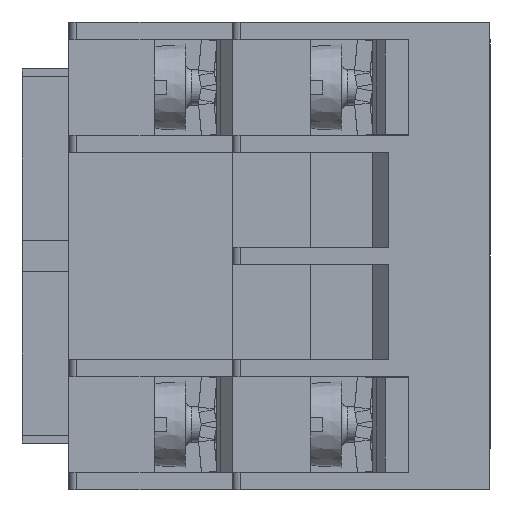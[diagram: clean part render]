
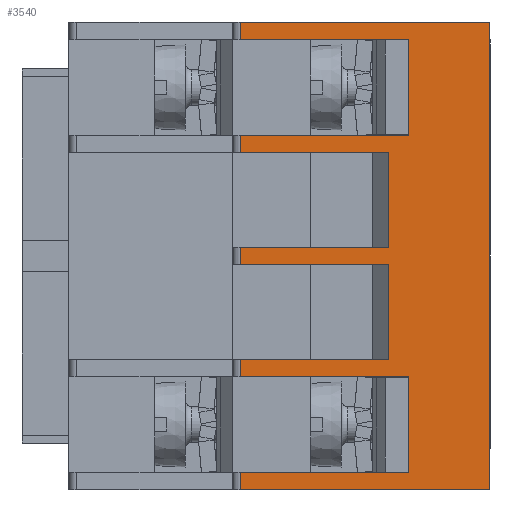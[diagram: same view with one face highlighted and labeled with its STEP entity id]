
A CAD part, left-side view. The second image highlights one B-rep face of the part: STEP entity #3540.
In plain terms, the highlighted planar face has unit normal (-1, 0, 0).
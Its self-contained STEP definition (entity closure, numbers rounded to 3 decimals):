
#3540=ADVANCED_FACE('',(#20855),#20857,.T.);
#20855=FACE_BOUND('',#20856,.T.);
#20856=EDGE_LOOP('',(#38687,#38688,#38689,#38690,#38691,#38692,#38693,#38694,#38695,
#38696,#38697,#38698,#38699,#38700,#38701,#38702,#38703,#38704,#38705,#38706));
#20857=PLANE('',#20858);
#20858=AXIS2_PLACEMENT_3D('',#20859,#20860,#20861);
#20859=CARTESIAN_POINT('',(-43.65,0.,-15.));
#20860=DIRECTION('',(-1.,0.,0.));
#20861=DIRECTION('',(0.,0.,1.));
#38687=ORIENTED_EDGE('',*,*,#47971,.T.);
#38688=ORIENTED_EDGE('',*,*,#48912,.T.);
#38689=ORIENTED_EDGE('',*,*,#48313,.F.);
#38690=ORIENTED_EDGE('',*,*,#48913,.T.);
#38691=ORIENTED_EDGE('',*,*,#48242,.T.);
#38692=ORIENTED_EDGE('',*,*,#48914,.T.);
#38693=ORIENTED_EDGE('',*,*,#48064,.T.);
#38694=ORIENTED_EDGE('',*,*,#48915,.T.);
#38695=ORIENTED_EDGE('',*,*,#48916,.T.);
#38696=ORIENTED_EDGE('',*,*,#48917,.T.);
#38697=ORIENTED_EDGE('',*,*,#48918,.T.);
#38698=ORIENTED_EDGE('',*,*,#48919,.F.);
#38699=ORIENTED_EDGE('',*,*,#48920,.T.);
#38700=ORIENTED_EDGE('',*,*,#48921,.T.);
#38701=ORIENTED_EDGE('',*,*,#48922,.T.);
#38702=ORIENTED_EDGE('',*,*,#48923,.F.);
#38703=ORIENTED_EDGE('',*,*,#48924,.T.);
#38704=ORIENTED_EDGE('',*,*,#48925,.T.);
#38705=ORIENTED_EDGE('',*,*,#48926,.T.);
#38706=ORIENTED_EDGE('',*,*,#48927,.T.);
#47971=EDGE_CURVE('',#54218,#54216,#54219,.F.);
#48064=EDGE_CURVE('',#54385,#54383,#54386,.F.);
#48242=EDGE_CURVE('',#54700,#54698,#54701,.T.);
#48313=EDGE_CURVE('',#54821,#54823,#54824,.T.);
#48912=EDGE_CURVE('',#54216,#54823,#55840,.T.);
#48913=EDGE_CURVE('',#54821,#54700,#55841,.T.);
#48914=EDGE_CURVE('',#54698,#54385,#55842,.T.);
#48915=EDGE_CURVE('',#54383,#55843,#55844,.F.);
#48916=EDGE_CURVE('',#55843,#55845,#55846,.F.);
#48917=EDGE_CURVE('',#55845,#55847,#55848,.T.);
#48918=EDGE_CURVE('',#55847,#55849,#55850,.F.);
#48919=EDGE_CURVE('',#55851,#55849,#55852,.T.);
#48920=EDGE_CURVE('',#55851,#55853,#55854,.F.);
#48921=EDGE_CURVE('',#55853,#55855,#55856,.T.);
#48922=EDGE_CURVE('',#55855,#55857,#55858,.F.);
#48923=EDGE_CURVE('',#55859,#55857,#55860,.T.);
#48924=EDGE_CURVE('',#55859,#55861,#55862,.F.);
#48925=EDGE_CURVE('',#55861,#55863,#55864,.T.);
#48926=EDGE_CURVE('',#55863,#55865,#55866,.F.);
#48927=EDGE_CURVE('',#55865,#54218,#55867,.F.);
#54216=VERTEX_POINT('',#66200);
#54218=VERTEX_POINT('',#66205);
#54219=LINE('',#66206,#66207);
#54383=VERTEX_POINT('',#66559);
#54385=VERTEX_POINT('',#66563);
#54386=LINE('',#66564,#66565);
#54698=VERTEX_POINT('',#67244);
#54700=VERTEX_POINT('',#67249);
#54701=LINE('',#67250,#67251);
#54821=VERTEX_POINT('',#67511);
#54823=VERTEX_POINT('',#67515);
#54824=LINE('',#67516,#67517);
#55840=LINE('',#69919,#69920);
#55841=LINE('',#69922,#69923);
#55842=LINE('',#69925,#69926);
#55843=VERTEX_POINT('',#69928);
#55844=LINE('',#69929,#69930);
#55845=VERTEX_POINT('',#69932);
#55846=LINE('',#69933,#69934);
#55847=VERTEX_POINT('',#69936);
#55848=LINE('',#69937,#69938);
#55849=VERTEX_POINT('',#69940);
#55850=LINE('',#69941,#69942);
#55851=VERTEX_POINT('',#69944);
#55852=LINE('',#69945,#69946);
#55853=VERTEX_POINT('',#69948);
#55854=LINE('',#69949,#69950);
#55855=VERTEX_POINT('',#69952);
#55856=LINE('',#69953,#69954);
#55857=VERTEX_POINT('',#69956);
#55858=LINE('',#69957,#69958);
#55859=VERTEX_POINT('',#69960);
#55860=LINE('',#69961,#69962);
#55861=VERTEX_POINT('',#69964);
#55862=LINE('',#69965,#69966);
#55863=VERTEX_POINT('',#69968);
#55864=LINE('',#69969,#69970);
#55865=VERTEX_POINT('',#69972);
#55866=LINE('',#69973,#69974);
#55867=LINE('',#69976,#69977);
#66200=CARTESIAN_POINT('',(-43.65,16.,-13.85));
#66205=CARTESIAN_POINT('',(-43.65,5.2,-13.85));
#66206=CARTESIAN_POINT('',(-43.65,16.,-13.85));
#66207=VECTOR('',#66208,1.);
#66208=DIRECTION('',(0.,-1.,0.));
#66559=CARTESIAN_POINT('',(-43.65,5.2,13.85));
#66563=CARTESIAN_POINT('',(-43.65,16.,13.85));
#66564=CARTESIAN_POINT('',(-43.65,5.2,13.85));
#66565=VECTOR('',#66566,1.);
#66566=DIRECTION('',(0.,1.,0.));
#67244=CARTESIAN_POINT('',(-43.65,16.,15.));
#67249=CARTESIAN_POINT('',(-43.65,0.,15.));
#67250=CARTESIAN_POINT('',(-43.65,0.,15.));
#67251=VECTOR('',#67252,1.);
#67252=DIRECTION('',(0.,1.,0.));
#67511=CARTESIAN_POINT('',(-43.65,0.,-15.));
#67515=CARTESIAN_POINT('',(-43.65,16.,-15.));
#67516=CARTESIAN_POINT('',(-43.65,0.,-15.));
#67517=VECTOR('',#67518,1.);
#67518=DIRECTION('',(0.,1.,0.));
#69919=CARTESIAN_POINT('',(-43.65,16.,-13.85));
#69920=VECTOR('',#69921,1.);
#69921=DIRECTION('',(0.,0.,-1.));
#69922=CARTESIAN_POINT('',(-43.65,0.,-15.));
#69923=VECTOR('',#69924,1.);
#69924=DIRECTION('',(0.,0.,1.));
#69925=CARTESIAN_POINT('',(-43.65,16.,15.));
#69926=VECTOR('',#69927,1.);
#69927=DIRECTION('',(0.,0.,-1.));
#69928=CARTESIAN_POINT('',(-43.65,5.2,7.75));
#69929=CARTESIAN_POINT('',(-43.65,5.2,7.75));
#69930=VECTOR('',#69931,1.);
#69931=DIRECTION('',(0.,0.,1.));
#69932=CARTESIAN_POINT('',(-43.65,16.,7.75));
#69933=CARTESIAN_POINT('',(-43.65,16.,7.75));
#69934=VECTOR('',#69935,1.);
#69935=DIRECTION('',(0.,-1.,0.));
#69936=CARTESIAN_POINT('',(-43.65,16.,6.65));
#69937=CARTESIAN_POINT('',(-43.65,16.,7.75));
#69938=VECTOR('',#69939,1.);
#69939=DIRECTION('',(0.,0.,-1.));
#69940=CARTESIAN_POINT('',(-43.65,6.5,6.65));
#69941=CARTESIAN_POINT('',(-43.65,6.5,6.65));
#69942=VECTOR('',#69943,1.);
#69943=DIRECTION('',(0.,1.,0.));
#69944=CARTESIAN_POINT('',(-43.65,6.5,0.55));
#69945=CARTESIAN_POINT('',(-43.65,6.5,0.55));
#69946=VECTOR('',#69947,1.);
#69947=DIRECTION('',(0.,0.,1.));
#69948=CARTESIAN_POINT('',(-43.65,16.,0.55));
#69949=CARTESIAN_POINT('',(-43.65,16.,0.55));
#69950=VECTOR('',#69951,1.);
#69951=DIRECTION('',(0.,-1.,0.));
#69952=CARTESIAN_POINT('',(-43.65,16.,-0.55));
#69953=CARTESIAN_POINT('',(-43.65,16.,0.55));
#69954=VECTOR('',#69955,1.);
#69955=DIRECTION('',(0.,0.,-1.));
#69956=CARTESIAN_POINT('',(-43.65,6.5,-0.55));
#69957=CARTESIAN_POINT('',(-43.65,6.5,-0.55));
#69958=VECTOR('',#69959,1.);
#69959=DIRECTION('',(0.,1.,0.));
#69960=CARTESIAN_POINT('',(-43.65,6.5,-6.65));
#69961=CARTESIAN_POINT('',(-43.65,6.5,-6.65));
#69962=VECTOR('',#69963,1.);
#69963=DIRECTION('',(0.,0.,1.));
#69964=CARTESIAN_POINT('',(-43.65,16.,-6.65));
#69965=CARTESIAN_POINT('',(-43.65,16.,-6.65));
#69966=VECTOR('',#69967,1.);
#69967=DIRECTION('',(0.,-1.,0.));
#69968=CARTESIAN_POINT('',(-43.65,16.,-7.75));
#69969=CARTESIAN_POINT('',(-43.65,16.,-6.65));
#69970=VECTOR('',#69971,1.);
#69971=DIRECTION('',(0.,0.,-1.));
#69972=CARTESIAN_POINT('',(-43.65,5.2,-7.75));
#69973=CARTESIAN_POINT('',(-43.65,5.2,-7.75));
#69974=VECTOR('',#69975,1.);
#69975=DIRECTION('',(0.,1.,0.));
#69976=CARTESIAN_POINT('',(-43.65,5.2,-13.85));
#69977=VECTOR('',#69978,1.);
#69978=DIRECTION('',(0.,0.,1.));
